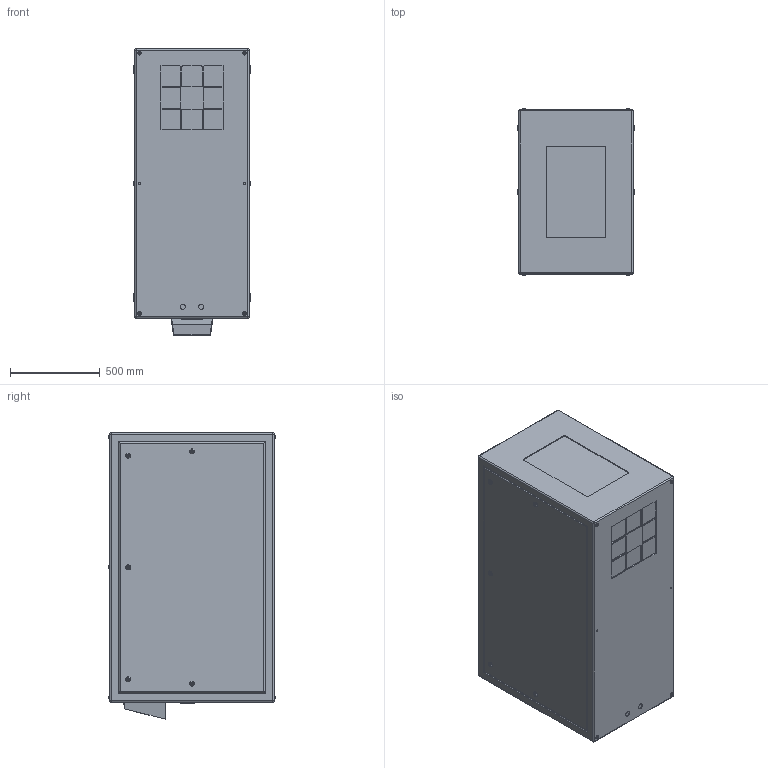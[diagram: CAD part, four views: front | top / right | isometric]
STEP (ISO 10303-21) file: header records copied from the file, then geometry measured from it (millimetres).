
FILE_DESCRIPTION (( 'STEP AP214' ), '1' );
FILE_NAME ('Cyclone 55.310.P.xx R08.STEP', '2020-04-07T14:46:13', ( '' ), ( '' ), 'SwSTEP 2.0', 'SolidWorks 2018', '' );
FILE_SCHEMA (( 'AUTOMOTIVE_DESIGN' ));
Length unit declared in the file: inch
Products named in the file (1): Cyclone 55.310.P.xx R08
Bounding box: 647.7 x 929.13 x 1593.85 mm (x, y, z)
Volume: 868024587.4 mm3; surface area: 6467533.4 mm2
Topology: 1 solids, 1 shells, 539 faces, 1254 edges, 800 vertices
Faces by surface type: plane 293, cylinder 186, torus 52, sphere 8
Entity records: 20092 total; most frequent: DIRECTION 2754, CARTESIAN_POINT 2634, ORIENTED_EDGE 2492, EDGE_CURVE 1246, AXIS2_PLACEMENT_3D 984, VERTEX_POINT 800, VECTOR 786, LINE 786
